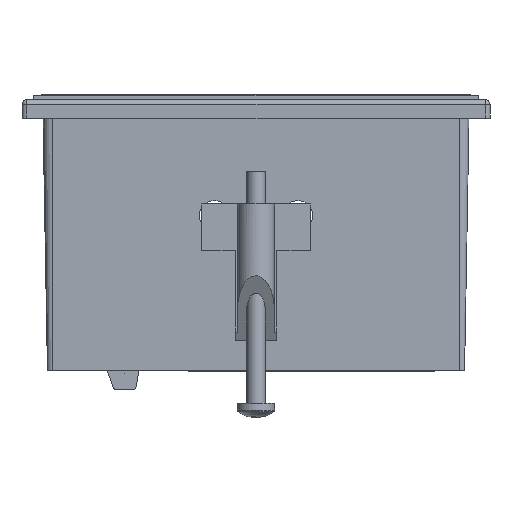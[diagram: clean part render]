
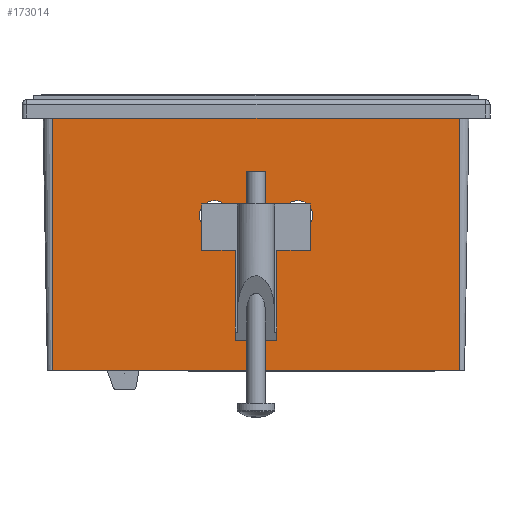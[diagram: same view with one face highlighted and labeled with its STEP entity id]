
A CAD part, left-side view. The second image highlights one B-rep face of the part: STEP entity #173014.
In plain terms, the highlighted planar face has unit normal (-1, 0, -0.018).
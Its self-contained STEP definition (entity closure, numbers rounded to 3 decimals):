
#7315 = VERTEX_POINT ( 'NONE', #104685 ) ;
#12208 = VECTOR ( 'NONE', #54111, 1000. ) ;
#16262 = CARTESIAN_POINT ( 'NONE',  ( -46., 44., -3. ) ) ;
#18047 = CARTESIAN_POINT ( 'NONE',  ( -45.014, -44., -59.5 ) ) ;
#18278 = ORIENTED_EDGE ( 'NONE', *, *, #104391, .T. ) ;
#19957 = CARTESIAN_POINT ( 'NONE',  ( -45.655, 9., -22.75 ) ) ;
#21182 = ORIENTED_EDGE ( 'NONE', *, *, #32723, .F. ) ;
#24873 =( BOUNDED_CURVE ( )  B_SPLINE_CURVE ( 3, ( #198148, #140494, #102455, #167366 ),
 .UNSPECIFIED., .F., .F. ) 
 B_SPLINE_CURVE_WITH_KNOTS ( ( 4, 4 ),
 ( 0., 3.142 ),
 .UNSPECIFIED. ) 
 CURVE ( )  GEOMETRIC_REPRESENTATION_ITEM ( )  RATIONAL_B_SPLINE_CURVE ( ( 1., 0.333, 0.333, 1. ) ) 
 REPRESENTATION_ITEM ( '' )  );
#26959 = VERTEX_POINT ( 'NONE', #18047 ) ;
#27757 = VERTEX_POINT ( 'NONE', #16262 ) ;
#28803 = VERTEX_POINT ( 'NONE', #197811 ) ;
#29303 = VECTOR ( 'NONE', #83607, 1000. ) ;
#30155 = DIRECTION ( 'NONE',  ( 0., 1., 0. ) ) ;
#32723 = EDGE_CURVE ( 'NONE', #209185, #28803, #24873, .T. ) ;
#37594 = ORIENTED_EDGE ( 'NONE', *, *, #128283, .F. ) ;
#39161 = LINE ( 'NONE', #199805, #12208 ) ;
#45211 = FACE_BOUND ( 'NONE', #168015, .T. ) ;
#45416 = CARTESIAN_POINT ( 'NONE',  ( -45.655, 9., -22.75 ) ) ;
#46256 = DIRECTION ( 'NONE',  ( -1., 0., -0.017 ) ) ;
#49245 = LINE ( 'NONE', #193827, #50065 ) ;
#50065 = VECTOR ( 'NONE', #30155, 1000. ) ;
#53064 = ORIENTED_EDGE ( 'NONE', *, *, #80575, .F. ) ;
#54111 = DIRECTION ( 'NONE',  ( 0., 1., 0. ) ) ;
#61201 = CARTESIAN_POINT ( 'NONE',  ( -45.655, 9., -22.75 ) ) ;
#63938 = CARTESIAN_POINT ( 'NONE',  ( -45.655, -9., -22.75 ) ) ;
#64072 = EDGE_CURVE ( 'NONE', #131118, #27757, #39161, .T. ) ;
#68336 =( BOUNDED_CURVE ( )  B_SPLINE_CURVE ( 3, ( #144940, #99130, #83084, #111915 ),
 .UNSPECIFIED., .F., .F. ) 
 B_SPLINE_CURVE_WITH_KNOTS ( ( 4, 4 ),
 ( 3.142, 6.283 ),
 .UNSPECIFIED. ) 
 CURVE ( )  GEOMETRIC_REPRESENTATION_ITEM ( )  RATIONAL_B_SPLINE_CURVE ( ( 1., 0.333, 0.333, 1. ) ) 
 REPRESENTATION_ITEM ( '' )  );
#80575 = EDGE_CURVE ( 'NONE', #28803, #209185, #68336, .T. ) ;
#82170 = VERTEX_POINT ( 'NONE', #45416 ) ;
#83084 = CARTESIAN_POINT ( 'NONE',  ( -45.655, -15.5, -22.75 ) ) ;
#83607 = DIRECTION ( 'NONE',  ( -0.017, 0., 1. ) ) ;
#87314 = CARTESIAN_POINT ( 'NONE',  ( -45.542, 9., -29.25 ) ) ;
#99130 = CARTESIAN_POINT ( 'NONE',  ( -45.542, -15.5, -29.25 ) ) ;
#102455 = CARTESIAN_POINT ( 'NONE',  ( -45.542, -2.5, -29.25 ) ) ;
#104391 = EDGE_CURVE ( 'NONE', #26959, #131118, #178295, .T. ) ;
#104685 = CARTESIAN_POINT ( 'NONE',  ( -45.014, 44., -59.5 ) ) ;
#111915 = CARTESIAN_POINT ( 'NONE',  ( -45.655, -9., -22.75 ) ) ;
#112252 = CARTESIAN_POINT ( 'NONE',  ( -45.542, 9., -29.25 ) ) ;
#117138 = ORIENTED_EDGE ( 'NONE', *, *, #64072, .T. ) ;
#119514 = LINE ( 'NONE', #200273, #170994 ) ;
#125100 = EDGE_CURVE ( 'NONE', #7315, #27757, #119514, .T. ) ;
#126141 = FACE_OUTER_BOUND ( 'NONE', #193459, .T. ) ;
#128283 = EDGE_CURVE ( 'NONE', #26959, #7315, #49245, .T. ) ;
#129233 = DIRECTION ( 'NONE',  ( -0.017, 0., 1. ) ) ;
#131118 = VERTEX_POINT ( 'NONE', #203735 ) ;
#132493 = ORIENTED_EDGE ( 'NONE', *, *, #184892, .F. ) ;
#136570 = VERTEX_POINT ( 'NONE', #87314 ) ;
#137089 = AXIS2_PLACEMENT_3D ( 'NONE', #175060, #46256, #129233 ) ;
#140494 = CARTESIAN_POINT ( 'NONE',  ( -45.655, -2.5, -22.75 ) ) ;
#140915 = EDGE_LOOP ( 'NONE', ( #21182, #53064 ) ) ;
#144940 = CARTESIAN_POINT ( 'NONE',  ( -45.542, -9., -29.25 ) ) ;
#145476 = CARTESIAN_POINT ( 'NONE',  ( -46., -44., -3. ) ) ;
#149859 = CARTESIAN_POINT ( 'NONE',  ( -45.655, 15.5, -22.75 ) ) ;
#150848 = CARTESIAN_POINT ( 'NONE',  ( -45.542, 9., -29.25 ) ) ;
#151958 = CARTESIAN_POINT ( 'NONE',  ( -45.542, 15.5, -29.25 ) ) ;
#155282 = ORIENTED_EDGE ( 'NONE', *, *, #125100, .F. ) ;
#160202 = FACE_BOUND ( 'NONE', #140915, .T. ) ;
#161210 = CARTESIAN_POINT ( 'NONE',  ( -45.542, 2.5, -29.25 ) ) ;
#165007 = EDGE_CURVE ( 'NONE', #82170, #136570, #193173, .T. ) ;
#167366 = CARTESIAN_POINT ( 'NONE',  ( -45.542, -9., -29.25 ) ) ;
#168015 = EDGE_LOOP ( 'NONE', ( #199757, #132493 ) ) ;
#170556 = DIRECTION ( 'NONE',  ( -0.017, 0., 1. ) ) ;
#170994 = VECTOR ( 'NONE', #170556, 1000. ) ;
#173014 = ADVANCED_FACE ( 'NONE', ( #126141, #45211, #160202 ), #191912, .T. ) ;
#175060 = CARTESIAN_POINT ( 'NONE',  ( -46., -44., -3. ) ) ;
#177093 = CARTESIAN_POINT ( 'NONE',  ( -45.655, 2.5, -22.75 ) ) ;
#177109 =( BOUNDED_CURVE ( )  B_SPLINE_CURVE ( 3, ( #112252, #161210, #177093, #61201 ),
 .UNSPECIFIED., .F., .F. ) 
 B_SPLINE_CURVE_WITH_KNOTS ( ( 4, 4 ),
 ( 3.142, 6.283 ),
 .UNSPECIFIED. ) 
 CURVE ( )  GEOMETRIC_REPRESENTATION_ITEM ( )  RATIONAL_B_SPLINE_CURVE ( ( 1., 0.333, 0.333, 1. ) ) 
 REPRESENTATION_ITEM ( '' )  );
#178295 = LINE ( 'NONE', #145476, #29303 ) ;
#184892 = EDGE_CURVE ( 'NONE', #136570, #82170, #177109, .T. ) ;
#191912 = PLANE ( 'NONE',  #137089 ) ;
#193173 =( BOUNDED_CURVE ( )  B_SPLINE_CURVE ( 3, ( #19957, #149859, #151958, #150848 ),
 .UNSPECIFIED., .F., .F. ) 
 B_SPLINE_CURVE_WITH_KNOTS ( ( 4, 4 ),
 ( 0., 3.142 ),
 .UNSPECIFIED. ) 
 CURVE ( )  GEOMETRIC_REPRESENTATION_ITEM ( )  RATIONAL_B_SPLINE_CURVE ( ( 1., 0.333, 0.333, 1. ) ) 
 REPRESENTATION_ITEM ( '' )  );
#193459 = EDGE_LOOP ( 'NONE', ( #117138, #155282, #37594, #18278 ) ) ;
#193827 = CARTESIAN_POINT ( 'NONE',  ( -45.014, -44., -59.5 ) ) ;
#197811 = CARTESIAN_POINT ( 'NONE',  ( -45.542, -9., -29.25 ) ) ;
#198148 = CARTESIAN_POINT ( 'NONE',  ( -45.655, -9., -22.75 ) ) ;
#199757 = ORIENTED_EDGE ( 'NONE', *, *, #165007, .F. ) ;
#199805 = CARTESIAN_POINT ( 'NONE',  ( -46., -44., -3. ) ) ;
#200273 = CARTESIAN_POINT ( 'NONE',  ( -46., 44., -3. ) ) ;
#203735 = CARTESIAN_POINT ( 'NONE',  ( -46., -44., -3. ) ) ;
#209185 = VERTEX_POINT ( 'NONE', #63938 ) ;
